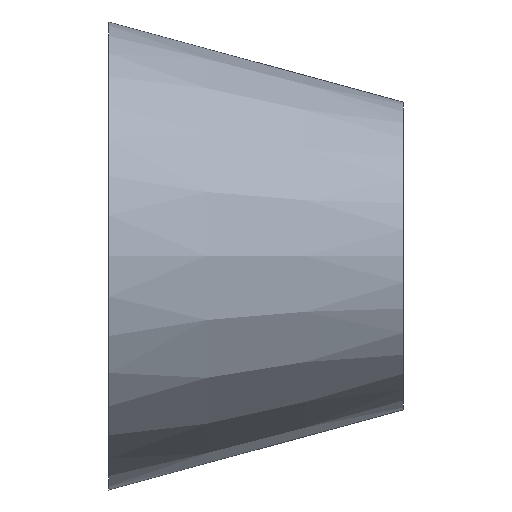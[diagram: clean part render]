
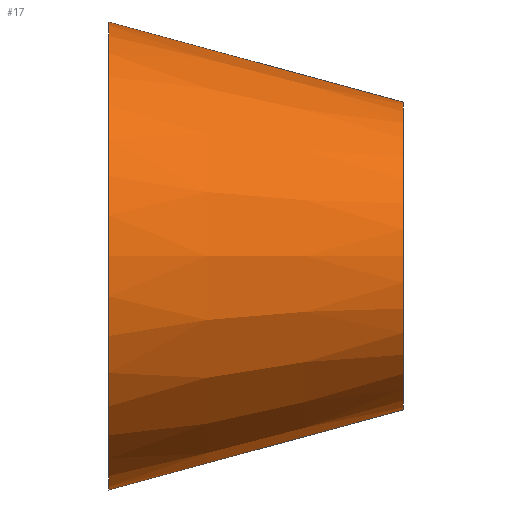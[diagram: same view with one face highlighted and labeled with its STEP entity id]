
A CAD part, front view. The second image highlights one B-rep face of the part: STEP entity #17.
In plain terms, the highlighted conical face has half-angle 15.255 degrees and reference radius 17.5 mm.
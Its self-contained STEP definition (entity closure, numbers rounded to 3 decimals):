
#17 = ADVANCED_FACE('',(#18),#31,.T.);
#18 = FACE_BOUND('',#19,.T.);
#19 = EDGE_LOOP('',(#20,#54,#74,#101));
#20 = ORIENTED_EDGE('',*,*,#21,.T.);
#21 = EDGE_CURVE('',#22,#22,#24,.T.);
#22 = VERTEX_POINT('',#23);
#23 = CARTESIAN_POINT('',(0.,17.5,0.));
#24 = SURFACE_CURVE('',#25,(#30,#42),.PCURVE_S1.);
#25 = CIRCLE('',#26,17.5);
#26 = AXIS2_PLACEMENT_3D('',#27,#28,#29);
#27 = CARTESIAN_POINT('',(0.,0.,0.));
#28 = DIRECTION('',(1.,0.,0.));
#29 = DIRECTION('',(0.,1.,0.));
#30 = PCURVE('',#31,#36);
#31 = CONICAL_SURFACE('',#32,17.5,0.266);
#32 = AXIS2_PLACEMENT_3D('',#33,#34,#35);
#33 = CARTESIAN_POINT('',(0.,0.,0.));
#34 = DIRECTION('',(-1.,-0.,-0.));
#35 = DIRECTION('',(0.,1.,0.));
#36 = DEFINITIONAL_REPRESENTATION('',(#37),#41);
#37 = LINE('',#38,#39);
#38 = CARTESIAN_POINT('',(-0.,-0.));
#39 = VECTOR('',#40,1.);
#40 = DIRECTION('',(-1.,-0.));
#41 = ( GEOMETRIC_REPRESENTATION_CONTEXT(2) 
PARAMETRIC_REPRESENTATION_CONTEXT() REPRESENTATION_CONTEXT('2D SPACE',''
  ) );
#42 = PCURVE('',#43,#48);
#43 = PLANE('',#44);
#44 = AXIS2_PLACEMENT_3D('',#45,#46,#47);
#45 = CARTESIAN_POINT('',(0.,0.,0.));
#46 = DIRECTION('',(1.,0.,0.));
#47 = DIRECTION('',(0.,1.,0.));
#48 = DEFINITIONAL_REPRESENTATION('',(#49),#53);
#49 = CIRCLE('',#50,17.5);
#50 = AXIS2_PLACEMENT_2D('',#51,#52);
#51 = CARTESIAN_POINT('',(0.,0.));
#52 = DIRECTION('',(1.,0.));
#53 = ( GEOMETRIC_REPRESENTATION_CONTEXT(2) 
PARAMETRIC_REPRESENTATION_CONTEXT() REPRESENTATION_CONTEXT('2D SPACE',''
  ) );
#54 = ORIENTED_EDGE('',*,*,#55,.T.);
#55 = EDGE_CURVE('',#22,#56,#58,.T.);
#56 = VERTEX_POINT('',#57);
#57 = CARTESIAN_POINT('',(22.,11.5,0.));
#58 = SEAM_CURVE('',#59,(#62,#68),.PCURVE_S1.);
#59 = B_SPLINE_CURVE_WITH_KNOTS('',1,(#60,#61),.UNSPECIFIED.,.F.,.F.,(2,
    2),(0.,1.),.PIECEWISE_BEZIER_KNOTS.);
#60 = CARTESIAN_POINT('',(0.,17.5,0.));
#61 = CARTESIAN_POINT('',(22.,11.5,0.));
#62 = PCURVE('',#31,#63);
#63 = DEFINITIONAL_REPRESENTATION('',(#64),#67);
#64 = B_SPLINE_CURVE_WITH_KNOTS('',1,(#65,#66),.UNSPECIFIED.,.F.,.F.,(2,
    2),(0.,1.),.PIECEWISE_BEZIER_KNOTS.);
#65 = CARTESIAN_POINT('',(-6.283,0.));
#66 = CARTESIAN_POINT('',(-6.283,-22.));
#67 = ( GEOMETRIC_REPRESENTATION_CONTEXT(2) 
PARAMETRIC_REPRESENTATION_CONTEXT() REPRESENTATION_CONTEXT('2D SPACE',''
  ) );
#68 = PCURVE('',#31,#69);
#69 = DEFINITIONAL_REPRESENTATION('',(#70),#73);
#70 = B_SPLINE_CURVE_WITH_KNOTS('',1,(#71,#72),.UNSPECIFIED.,.F.,.F.,(2,
    2),(0.,1.),.PIECEWISE_BEZIER_KNOTS.);
#71 = CARTESIAN_POINT('',(0.,0.));
#72 = CARTESIAN_POINT('',(0.,-22.));
#73 = ( GEOMETRIC_REPRESENTATION_CONTEXT(2) 
PARAMETRIC_REPRESENTATION_CONTEXT() REPRESENTATION_CONTEXT('2D SPACE',''
  ) );
#74 = ORIENTED_EDGE('',*,*,#75,.F.);
#75 = EDGE_CURVE('',#56,#56,#76,.T.);
#76 = SURFACE_CURVE('',#77,(#82,#89),.PCURVE_S1.);
#77 = CIRCLE('',#78,11.5);
#78 = AXIS2_PLACEMENT_3D('',#79,#80,#81);
#79 = CARTESIAN_POINT('',(22.,0.,0.));
#80 = DIRECTION('',(1.,0.,0.));
#81 = DIRECTION('',(0.,1.,0.));
#82 = PCURVE('',#31,#83);
#83 = DEFINITIONAL_REPRESENTATION('',(#84),#88);
#84 = LINE('',#85,#86);
#85 = CARTESIAN_POINT('',(-0.,-22.));
#86 = VECTOR('',#87,1.);
#87 = DIRECTION('',(-1.,-0.));
#88 = ( GEOMETRIC_REPRESENTATION_CONTEXT(2) 
PARAMETRIC_REPRESENTATION_CONTEXT() REPRESENTATION_CONTEXT('2D SPACE',''
  ) );
#89 = PCURVE('',#90,#95);
#90 = PLANE('',#91);
#91 = AXIS2_PLACEMENT_3D('',#92,#93,#94);
#92 = CARTESIAN_POINT('',(22.,0.,0.));
#93 = DIRECTION('',(1.,0.,0.));
#94 = DIRECTION('',(0.,1.,0.));
#95 = DEFINITIONAL_REPRESENTATION('',(#96),#100);
#96 = CIRCLE('',#97,11.5);
#97 = AXIS2_PLACEMENT_2D('',#98,#99);
#98 = CARTESIAN_POINT('',(0.,0.));
#99 = DIRECTION('',(1.,0.));
#100 = ( GEOMETRIC_REPRESENTATION_CONTEXT(2) 
PARAMETRIC_REPRESENTATION_CONTEXT() REPRESENTATION_CONTEXT('2D SPACE',''
  ) );
#101 = ORIENTED_EDGE('',*,*,#55,.F.);
